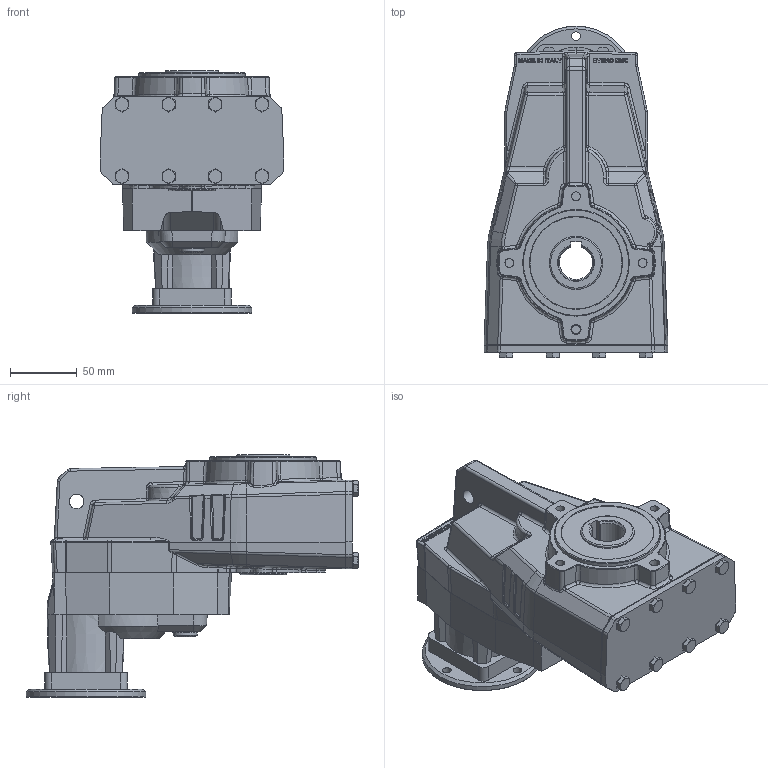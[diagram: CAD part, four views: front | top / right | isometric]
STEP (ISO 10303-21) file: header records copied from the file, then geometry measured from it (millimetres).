
FILE_DESCRIPTION( ( 'Unknown' ), '1' );
FILE_NAME( 'E:/services/configuratordownloads/customers/HYDROMEC/FLACH/download/1B21F24A1AC87B87B861EBBB456316A8/STEP/1B21F24A1AC87B87B861EBBB456316A8.3d.stp', 'Unknown', ( 'Unknown' ), ( 'Unknown' ), 'PSStep 10.1', 'Unknown', ' ' );
FILE_SCHEMA( ( 'AUTOMOTIVE_DESIGN { 1 0 10303 214 1 1 1 1 }' ) );
Length unit declared in the file: millimetre
Products named in the file (1): F308800ST
Bounding box: 138 x 249.19 x 182 mm (x, y, z)
Volume: 2272901.9 mm3; surface area: 160396.3 mm2
Topology: 1 solids, 28 shells, 1199 faces, 2796 edges, 1736 vertices
Faces by surface type: plane 559, cylinder 266, bspline 203, cone 132, torus 31, sphere 8
Full cylindrical faces by diameter (mm): 4.917 x17, 6 x8, 6.5 x12, 6.647 x4, 8.9 x8, 10 x6, 11 x1, 13.5 x1, 18 x1, 19 x1, 20 x1, 25 x1, 35 x1, 40 x2, 45 x1, 60 x1, 80 x1
Entity records: 53633 total; most frequent: CARTESIAN_POINT 19438, ORIENTED_EDGE 5162, DIRECTION 4452, EDGE_CURVE 2581, VERTEX_POINT 1667, AXIS2_PLACEMENT_3D 1577, EDGE_LOOP 1458, FACE_OUTER_BOUND 1299
